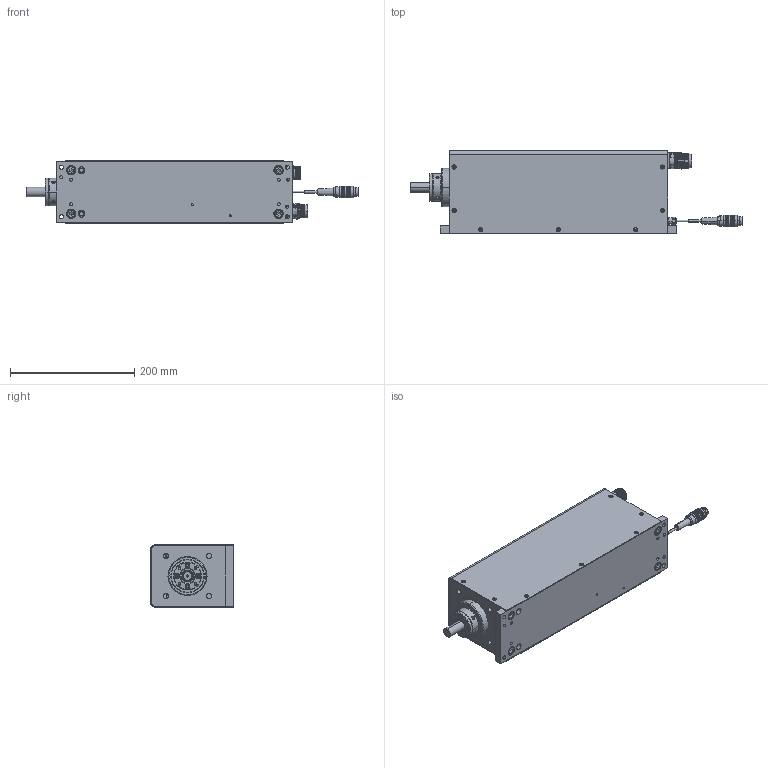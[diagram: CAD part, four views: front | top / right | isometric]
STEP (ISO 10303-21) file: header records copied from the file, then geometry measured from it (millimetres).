
FILE_DESCRIPTION (( 'STEP AP203' ), '1' );
FILE_NAME ('MUD5M-0100-060-NGNG2_Kundenmodell.STEP', '2020-02-21T14:46:27', ( '' ), ( '' ), 'SwSTEP 2.0', 'SolidWorks 2016', '' );
FILE_SCHEMA (( 'CONFIG_CONTROL_DESIGN' ));
Length unit declared in the file: millimetre
Products named in the file (2): MUD5M-0100-060-NGNG2_Kundenmodell
Bounding box: 535 x 133.5 x 100 mm (x, y, z)
Volume: 1126043 mm3; surface area: 494950.6 mm2
Topology: 52 solids, 52 shells, 7167 faces, 17451 edges, 10461 vertices
Faces by surface type: plane 4444, cylinder 1482, bspline 631, cone 477, torus 114, sphere 19
Entity records: 237236 total; most frequent: CARTESIAN_POINT 82072, ORIENTED_EDGE 34558, DIRECTION 29006, EDGE_CURVE 17279, LINE 10580, VECTOR 10580, VERTEX_POINT 10441, AXIS2_PLACEMENT_3D 9213
